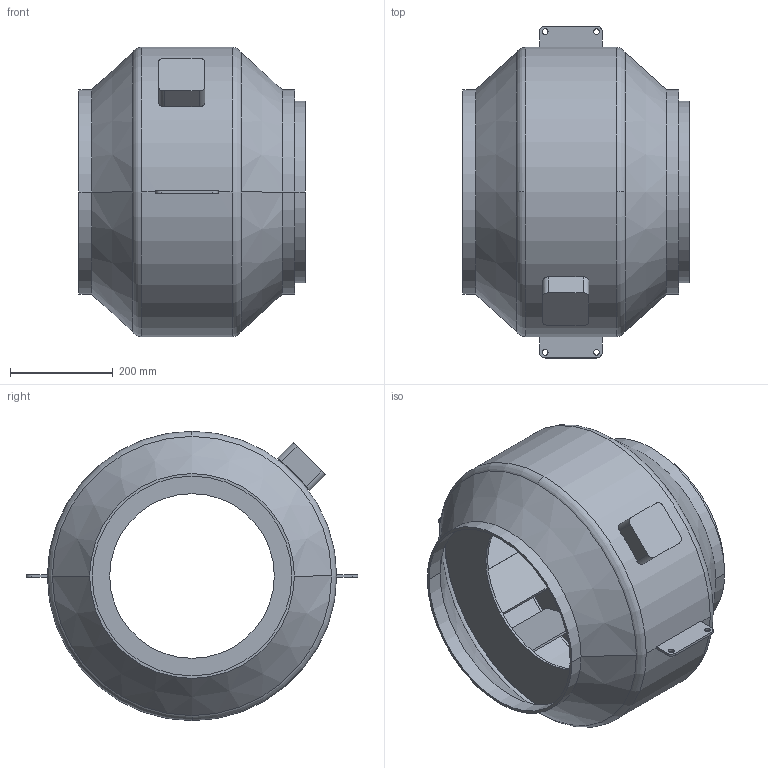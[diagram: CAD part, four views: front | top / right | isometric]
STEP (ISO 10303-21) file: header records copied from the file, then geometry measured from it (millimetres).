
FILE_DESCRIPTION(('STEP AP214'),'1');
FILE_NAME('5145880800.stp','2019-05-13T14:54:54',('TraceParts'),('TraceParts S.A.'),'Spatial InterOp 3D',' ',' ');
FILE_SCHEMA(('AUTOMOTIVE_DESIGN { 1 0 10303 214 1 1 1 1 }'));
Length unit declared in the file: millimetre
Products named in the file (1): 5145880800_1
Bounding box: 441 x 647 x 564 mm (x, y, z)
Volume: 7858645.9 mm3; surface area: 2782457.9 mm2
Topology: 2 solids, 2 shells, 135 faces, 371 edges, 244 vertices
Faces by surface type: plane 71, cylinder 48, cone 8, torus 8
Entity records: 5819 total; most frequent: CARTESIAN_POINT 1098, DIRECTION 763, ORIENTED_EDGE 742, EDGE_CURVE 371, AXIS2_PLACEMENT_3D 265, VERTEX_POINT 244, LINE 233, VECTOR 233
